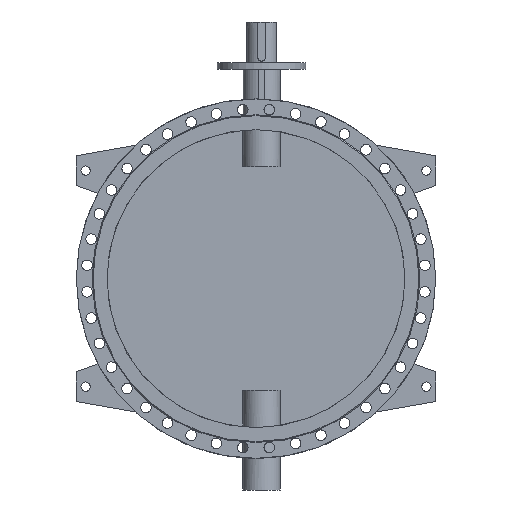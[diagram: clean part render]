
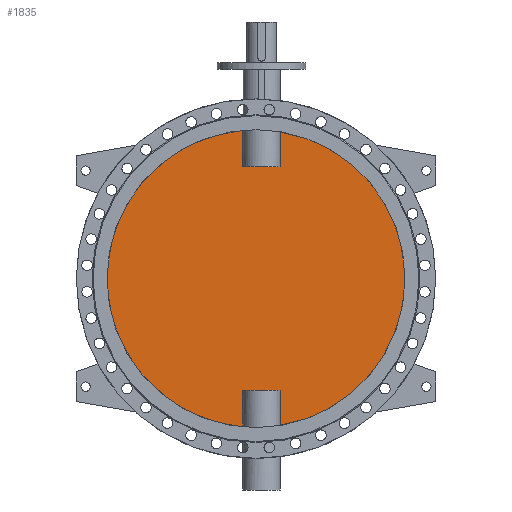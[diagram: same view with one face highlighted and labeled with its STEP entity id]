
A CAD part, front view. The second image highlights one B-rep face of the part: STEP entity #1835.
In plain terms, the highlighted planar face has unit normal (0, -1, 0).
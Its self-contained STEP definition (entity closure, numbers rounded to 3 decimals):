
#1835=ADVANCED_FACE('',(#3959),#3961,.F.);
#3959=FACE_BOUND('',#3960,.T.);
#3960=EDGE_LOOP('',(#4979,#4980,#4981,#4982,#4983,#4984,#4985,#4986));
#3961=PLANE('',#3962);
#3962=AXIS2_PLACEMENT_3D('',#3963,#3964,#3965);
#3963=CARTESIAN_POINT('',(0.,-5.,0.));
#3964=DIRECTION('',(0.,1.,0.));
#3965=DIRECTION('',(1.,0.,0.));
#4979=ORIENTED_EDGE('',*,*,#5495,.T.);
#4980=ORIENTED_EDGE('',*,*,#5509,.T.);
#4981=ORIENTED_EDGE('',*,*,#5510,.T.);
#4982=ORIENTED_EDGE('',*,*,#5511,.T.);
#4983=ORIENTED_EDGE('',*,*,#5497,.T.);
#4984=ORIENTED_EDGE('',*,*,#5512,.T.);
#4985=ORIENTED_EDGE('',*,*,#5513,.T.);
#4986=ORIENTED_EDGE('',*,*,#5514,.T.);
#5495=EDGE_CURVE('',#6357,#6358,#6359,.F.);
#5497=EDGE_CURVE('',#6362,#6360,#6363,.F.);
#5509=EDGE_CURVE('',#6358,#6385,#6386,.T.);
#5510=EDGE_CURVE('',#6385,#6387,#6388,.F.);
#5511=EDGE_CURVE('',#6387,#6362,#6389,.F.);
#5512=EDGE_CURVE('',#6360,#6390,#6391,.F.);
#5513=EDGE_CURVE('',#6390,#6392,#6393,.F.);
#5514=EDGE_CURVE('',#6392,#6357,#6394,.T.);
#6357=VERTEX_POINT('',#8997);
#6358=VERTEX_POINT('',#8998);
#6359=CIRCLE('',#8999,800.);
#6360=VERTEX_POINT('',#9003);
#6362=VERTEX_POINT('',#9103);
#6363=CIRCLE('',#9104,800.);
#6385=VERTEX_POINT('',#9480);
#6386=LINE('',#9481,#9482);
#6387=VERTEX_POINT('',#9484);
#6388=LINE('',#9485,#9486);
#6389=LINE('',#9488,#9489);
#6390=VERTEX_POINT('',#9491);
#6391=LINE('',#9492,#9493);
#6392=VERTEX_POINT('',#9495);
#6393=LINE('',#9496,#9497);
#6394=LINE('',#9499,#9500);
#8997=CARTESIAN_POINT('',(129.875,-5.,-789.387));
#8998=CARTESIAN_POINT('',(129.875,-5.,789.387));
#8999=AXIS2_PLACEMENT_3D('',#9000,#9001,#9002);
#9000=CARTESIAN_POINT('',(0.,-5.,0.));
#9001=DIRECTION('',(0.,1.,0.));
#9002=DIRECTION('',(0.162,0.,0.987));
#9003=CARTESIAN_POINT('',(-69.875,-5.,-796.943));
#9103=CARTESIAN_POINT('',(-69.875,-5.,796.943));
#9104=AXIS2_PLACEMENT_3D('',#9105,#9106,#9107);
#9105=CARTESIAN_POINT('',(0.,-5.,0.));
#9106=DIRECTION('',(0.,1.,0.));
#9107=DIRECTION('',(-0.087,0.,-0.996));
#9480=CARTESIAN_POINT('',(129.875,-5.,600.));
#9481=CARTESIAN_POINT('',(129.875,-5.,789.387));
#9482=VECTOR('',#9483,1.);
#9483=DIRECTION('',(0.,0.,-1.));
#9484=CARTESIAN_POINT('',(-69.875,-5.,600.));
#9485=CARTESIAN_POINT('',(-69.875,-5.,600.));
#9486=VECTOR('',#9487,1.);
#9487=DIRECTION('',(1.,0.,0.));
#9488=CARTESIAN_POINT('',(-69.875,-5.,796.943));
#9489=VECTOR('',#9490,1.);
#9490=DIRECTION('',(0.,0.,-1.));
#9491=CARTESIAN_POINT('',(-69.875,-5.,-600.));
#9492=CARTESIAN_POINT('',(-69.875,-5.,-600.));
#9493=VECTOR('',#9494,1.);
#9494=DIRECTION('',(0.,0.,-1.));
#9495=CARTESIAN_POINT('',(129.875,-5.,-600.));
#9496=CARTESIAN_POINT('',(129.875,-5.,-600.));
#9497=VECTOR('',#9498,1.);
#9498=DIRECTION('',(-1.,0.,0.));
#9499=CARTESIAN_POINT('',(129.875,-5.,-600.));
#9500=VECTOR('',#9501,1.);
#9501=DIRECTION('',(0.,0.,-1.));
